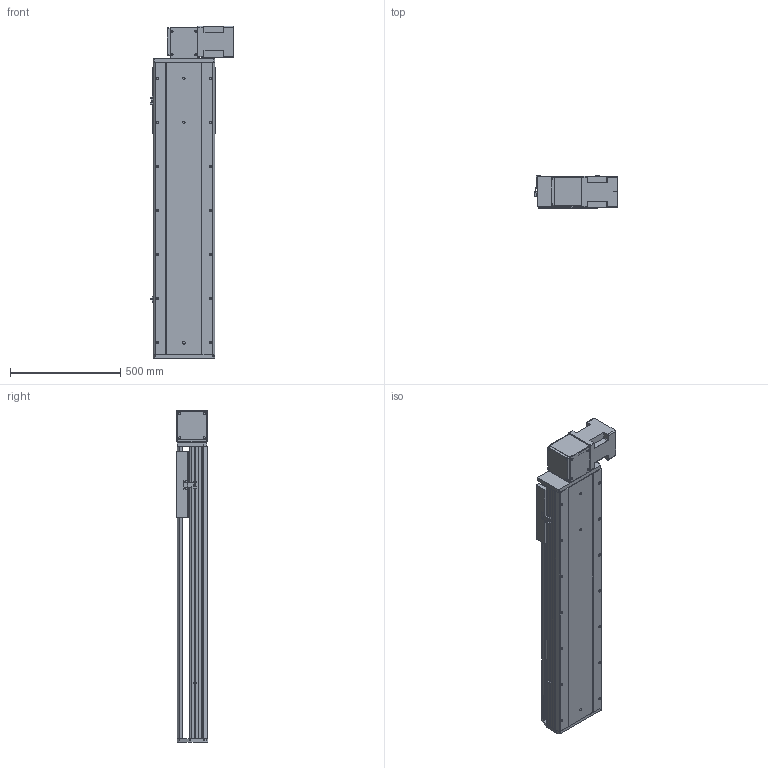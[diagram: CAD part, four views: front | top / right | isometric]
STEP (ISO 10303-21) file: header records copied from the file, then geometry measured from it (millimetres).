
FILE_DESCRIPTION (( 'STEP AP214' ), '1' );
FILE_NAME ('RTB28S-XX-900-BL-M100-XX-C4.STEP', '2025-12-22T02:19:00', ( '' ), ( '' ), 'SwSTEP 2.0', 'SolidWorks 2018', '' );
FILE_SCHEMA (( 'AUTOMOTIVE_DESIGN' ));
Length unit declared in the file: millimetre
Products named in the file (4): RTB28S-GY-008^RTB28S-XX-XX-BL-M100-XX-C4; RTB28S-GY-004^RTB28S-XX-XX-BL-M100-XX-C4; RTB28S-XX-900-BL-M100-XX-C4; RTB28S-GY-011^RTB28S-XX-XX-BL-M100-XX-C4
Assembly tree (3 placements, depth 2):
  RTB28S-XX-900-BL-M100-XX-C4
    RTB28S-GY-011^RTB28S-XX-XX-BL-M100-XX-C4
    RTB28S-GY-004^RTB28S-XX-XX-BL-M100-XX-C4
    RTB28S-GY-008^RTB28S-XX-XX-BL-M100-XX-C4
Bounding box: 380.7 x 145 x 1507 mm (x, y, z)
Volume: 28044976.4 mm3; surface area: 2718007.8 mm2
Topology: 3 solids, 4 shells, 778 faces, 2058 edges, 1308 vertices
Faces by surface type: cylinder 351, plane 343, cone 80, torus 4
Entity records: 29027 total; most frequent: CARTESIAN_POINT 4852, DIRECTION 4356, ORIENTED_EDGE 4052, EDGE_CURVE 2026, AXIS2_PLACEMENT_3D 1568, VERTEX_POINT 1308, LINE 1220, VECTOR 1220
